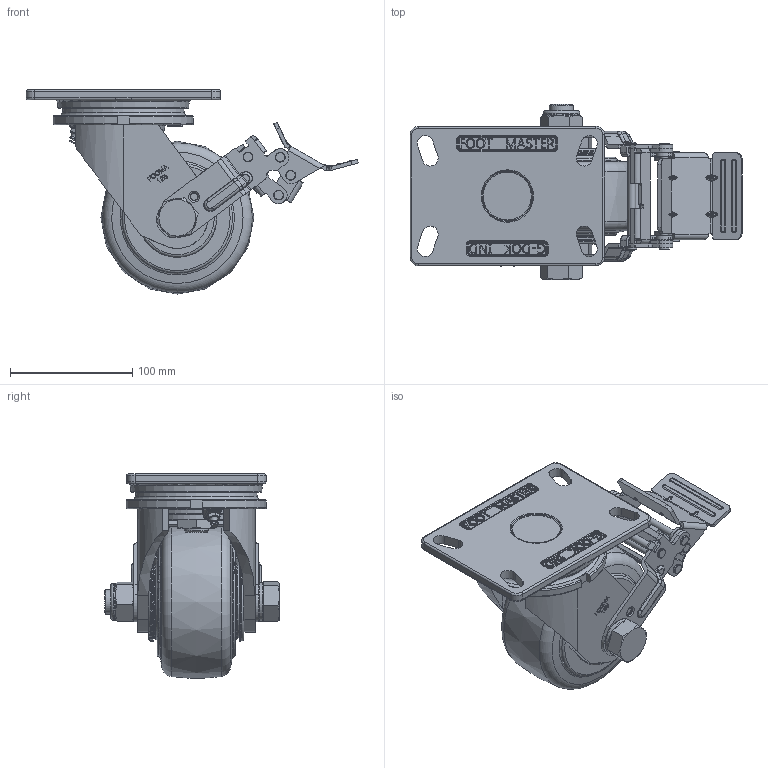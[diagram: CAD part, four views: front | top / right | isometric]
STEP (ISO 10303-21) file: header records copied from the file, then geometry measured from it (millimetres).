
FILE_DESCRIPTION(/* description */ (''),/* implementation_level */ '2;1');
FILE_NAME(/* name */ '\\192.168.10.38\지덕공유\1.기술연구소\손동원\GF-SERIES\3D\GF-125-BSF-MUD.stp',/* time_stamp */ '2023-07-25T14:00:09+09:00',/* author */ ('admin'),/* organization */ (''),/* preprocessor_version */ 'ST-DEVELOPER v18.1',/* originating_system */ 'Autodesk Inventor 2021',/* authorisation */ '');
FILE_SCHEMA (('AUTOMOTIVE_DESIGN { 1 0 10303 214 3 1 1 }'));
Products named in the file (1): GF-125-BSF-MUD
Bounding box: 271.35 x 143 x 166.84 mm (x, y, z)
Volume: 1338281.8 mm3; surface area: 196338.3 mm2
Topology: 7 solids, 7 shells, 2063 faces, 5497 edges, 3484 vertices
Faces by surface type: plane 738, bspline 562, cylinder 538, torus 146, cone 63, sphere 16
Full cylindrical faces by diameter (mm): 4 x4, 6 x5, 6.2 x18, 7 x2, 8 x8, 9.7 x2, 10 x2, 20 x4, 20.2 x4, 24.9 x2, 30 x1, 32.334 x2, 39.666 x2, 59 x1, 64.519 x2
Entity records: 75346 total; most frequent: CARTESIAN_POINT 26238, ORIENTED_EDGE 10966, DIRECTION 9246, EDGE_CURVE 5483, VERTEX_POINT 3493, AXIS2_PLACEMENT_3D 3323, LINE 2600, VECTOR 2600
